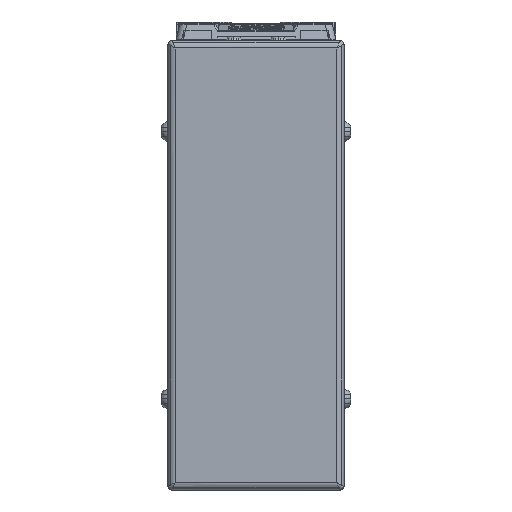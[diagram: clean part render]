
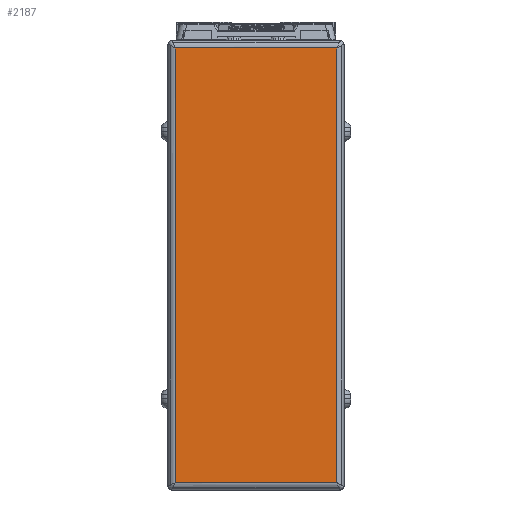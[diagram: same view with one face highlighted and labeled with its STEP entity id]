
A CAD part, left-side view. The second image highlights one B-rep face of the part: STEP entity #2187.
In plain terms, the highlighted planar face has unit normal (-1, 0, 0).
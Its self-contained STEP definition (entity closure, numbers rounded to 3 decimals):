
#2187=ADVANCED_FACE('',(#5888),#5889,.T.);
#5888=FACE_OUTER_BOUND('',#11605,.T.);
#5889=PLANE('',#11606);
#11605=EDGE_LOOP('',(#20739,#20740,#20741,#20742));
#11606=AXIS2_PLACEMENT_3D('',#20743,#20744,#20745);
#20739=ORIENTED_EDGE('',*,*,#35895,.F.);
#20740=ORIENTED_EDGE('',*,*,#35896,.F.);
#20741=ORIENTED_EDGE('',*,*,#35897,.F.);
#20742=ORIENTED_EDGE('',*,*,#35898,.F.);
#20743=CARTESIAN_POINT('',(-48.,0.,-42.5));
#20744=DIRECTION('',(-1.0,0.,0.));
#20745=DIRECTION('',(0.,0.,1.0));
#35895=EDGE_CURVE('',#42790,#42791,#42792,.T.);
#35896=EDGE_CURVE('',#42793,#42790,#42794,.T.);
#35897=EDGE_CURVE('',#42205,#42793,#42795,.T.);
#35898=EDGE_CURVE('',#42791,#42205,#42796,.T.);
#42205=VERTEX_POINT('',#51644);
#42790=VERTEX_POINT('',#52481);
#42791=VERTEX_POINT('',#52482);
#42792=LINE('',#52483,#52484);
#42793=VERTEX_POINT('',#52485);
#42794=LINE('',#52486,#52487);
#42795=LINE('',#52488,#52489);
#42796=LINE('',#52490,#52491);
#51644=CARTESIAN_POINT('',(-48.,-21.7,-101.0));
#52481=CARTESIAN_POINT('',(-48.,21.7,16.));
#52482=CARTESIAN_POINT('',(-48.,-21.7,16.));
#52483=CARTESIAN_POINT('',(-48.,0.,16.));
#52484=VECTOR('',#64576,10.0);
#52485=CARTESIAN_POINT('',(-48.,21.7,-101.0));
#52486=CARTESIAN_POINT('',(-48.,21.7,-42.5));
#52487=VECTOR('',#64577,10.0);
#52488=CARTESIAN_POINT('',(-48.,0.,-101.0));
#52489=VECTOR('',#64578,10.0);
#52490=CARTESIAN_POINT('',(-48.,-21.7,-42.5));
#52491=VECTOR('',#64579,10.0);
#64576=DIRECTION('',(0.,-1.0,0.));
#64577=DIRECTION('',(0.,0.,1.0));
#64578=DIRECTION('',(0.,1.0,0.));
#64579=DIRECTION('',(0.,0.,-1.0));
